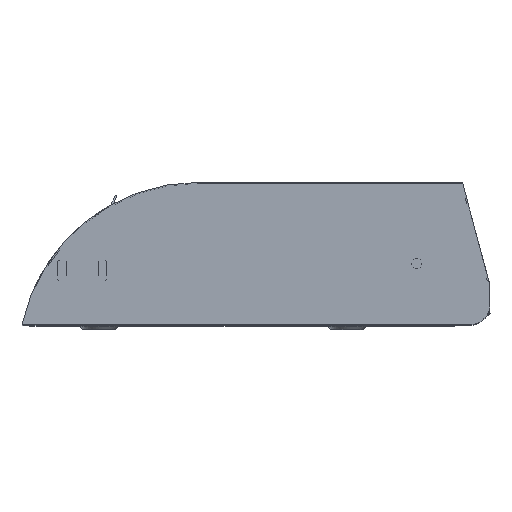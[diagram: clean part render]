
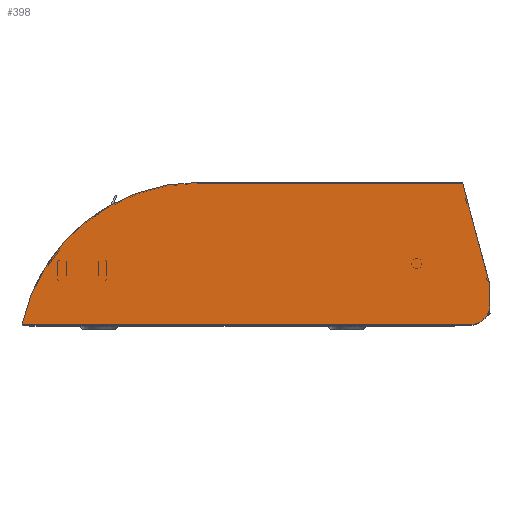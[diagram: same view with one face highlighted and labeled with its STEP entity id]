
A CAD part, top view. The second image highlights one B-rep face of the part: STEP entity #398.
In plain terms, the highlighted planar face has unit normal (0, 0, 1).
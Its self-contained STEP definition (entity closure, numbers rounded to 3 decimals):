
#151=CARTESIAN_POINT('',(-219.85,-29.35,1.5));
#152=VERTEX_POINT('',#151);
#153=CARTESIAN_POINT('',(-46.76,110.65,1.5));
#154=VERTEX_POINT('',#153);
#155=CARTESIAN_POINT('',(-46.76,-66.35,1.5));
#156=DIRECTION('',(0.0,0.0,-1.0));
#157=DIRECTION('',(0.0,1.0,0.0));
#158=AXIS2_PLACEMENT_3D('',#155,#156,#157);
#159=CIRCLE('',#158,177.0);
#160=EDGE_CURVE('',#152,#154,#159,.T.);
#193=CARTESIAN_POINT('',(211.172,110.65,1.5));
#194=VERTEX_POINT('',#193);
#195=CARTESIAN_POINT('',(-46.76,110.65,1.5));
#196=DIRECTION('',(1.0,0.0,0.0));
#197=VECTOR('',#196,257.933);
#198=LINE('',#195,#197);
#199=EDGE_CURVE('',#154,#194,#198,.T.);
#224=CARTESIAN_POINT('',(213.104,109.168,1.5));
#225=VERTEX_POINT('',#224);
#226=CARTESIAN_POINT('',(211.172,108.65,1.5));
#227=DIRECTION('',(0.0,0.0,-1.0));
#228=DIRECTION('',(0.966,0.259,0.0));
#229=AXIS2_PLACEMENT_3D('',#226,#227,#228);
#230=CIRCLE('',#229,2.0);
#231=EDGE_CURVE('',#194,#225,#230,.T.);
#257=CARTESIAN_POINT('',(239.85,9.35,1.5));
#258=VERTEX_POINT('',#257);
#259=CARTESIAN_POINT('',(213.104,109.168,1.5));
#260=DIRECTION('',(0.259,-0.966,0.0));
#261=VECTOR('',#260,103.339);
#262=LINE('',#259,#261);
#263=EDGE_CURVE('',#225,#258,#262,.T.);
#288=CARTESIAN_POINT('',(239.85,-9.35,1.5));
#289=VERTEX_POINT('',#288);
#290=CARTESIAN_POINT('',(239.85,9.35,1.5));
#291=DIRECTION('',(0.0,-1.0,0.0));
#292=VECTOR('',#291,18.7);
#293=LINE('',#290,#292);
#294=EDGE_CURVE('',#258,#289,#293,.T.);
#319=CARTESIAN_POINT('',(219.85,-29.35,1.5));
#320=VERTEX_POINT('',#319);
#321=CARTESIAN_POINT('',(219.85,-9.35,1.5));
#322=DIRECTION('',(0.0,0.0,-1.0));
#323=DIRECTION('',(0.0,-1.0,0.0));
#324=AXIS2_PLACEMENT_3D('',#321,#322,#323);
#325=CIRCLE('',#324,20.0);
#326=EDGE_CURVE('',#289,#320,#325,.T.);
#352=CARTESIAN_POINT('',(219.85,-29.35,1.5));
#353=DIRECTION('',(-1.0,0.0,0.0));
#354=VECTOR('',#353,439.7);
#355=LINE('',#352,#354);
#356=EDGE_CURVE('',#320,#152,#355,.T.);
#384=CARTESIAN_POINT('',(19.463,32.471,1.5));
#385=DIRECTION('',(0.0,0.0,1.0));
#386=DIRECTION('',(1.0,0.0,0.0));
#387=AXIS2_PLACEMENT_3D('',#384,#385,#386);
#388=PLANE('',#387);
#389=ORIENTED_EDGE('',*,*,#160,.F.);
#390=ORIENTED_EDGE('',*,*,#356,.F.);
#391=ORIENTED_EDGE('',*,*,#326,.F.);
#392=ORIENTED_EDGE('',*,*,#294,.F.);
#393=ORIENTED_EDGE('',*,*,#263,.F.);
#394=ORIENTED_EDGE('',*,*,#231,.F.);
#395=ORIENTED_EDGE('',*,*,#199,.F.);
#396=EDGE_LOOP('',(#389,#390,#391,#392,#393,#394,#395));
#397=FACE_OUTER_BOUND('',#396,.T.);
#398=ADVANCED_FACE('',(#397),#388,.T.);
